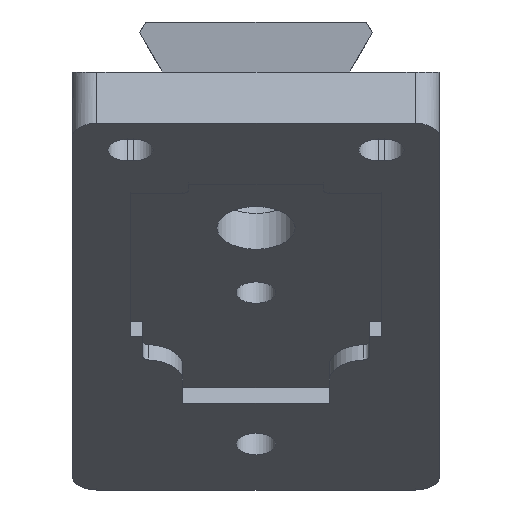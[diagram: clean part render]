
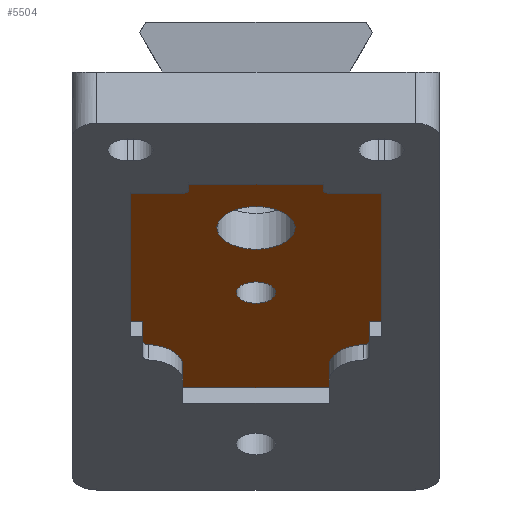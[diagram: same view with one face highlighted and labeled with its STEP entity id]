
A CAD part, left-side view. The second image highlights one B-rep face of the part: STEP entity #5504.
In plain terms, the highlighted planar face has unit normal (-0.545, 0, -0.839).
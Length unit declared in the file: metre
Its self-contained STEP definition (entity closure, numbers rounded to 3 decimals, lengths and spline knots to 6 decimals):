
#400=CIRCLE('',#5546,0.0016);
#402=CIRCLE('',#5549,0.0032);
#463=CIRCLE('',#5814,0.0005);
#464=CIRCLE('',#5815,0.003);
#465=CIRCLE('',#5816,0.003);
#466=CIRCLE('',#5817,0.0005);
#467=CIRCLE('',#5818,0.0005);
#468=CIRCLE('',#5819,0.0005);
#2017=ORIENTED_EDGE('',*,*,#2862,.T.);
#2018=ORIENTED_EDGE('',*,*,#2876,.T.);
#2019=ORIENTED_EDGE('',*,*,#2877,.T.);
#2020=ORIENTED_EDGE('',*,*,#2863,.T.);
#2021=ORIENTED_EDGE('',*,*,#2867,.T.);
#2022=ORIENTED_EDGE('',*,*,#2869,.F.);
#2023=ORIENTED_EDGE('',*,*,#2878,.T.);
#2024=ORIENTED_EDGE('',*,*,#2879,.T.);
#2025=ORIENTED_EDGE('',*,*,#2870,.F.);
#2026=ORIENTED_EDGE('',*,*,#2874,.F.);
#2027=ORIENTED_EDGE('',*,*,#2875,.T.);
#2028=ORIENTED_EDGE('',*,*,#2845,.F.);
#2029=ORIENTED_EDGE('',*,*,#2880,.T.);
#2030=ORIENTED_EDGE('',*,*,#2847,.T.);
#2031=ORIENTED_EDGE('',*,*,#2851,.T.);
#2032=ORIENTED_EDGE('',*,*,#2853,.F.);
#2033=ORIENTED_EDGE('',*,*,#2881,.T.);
#2034=ORIENTED_EDGE('',*,*,#2854,.F.);
#2035=ORIENTED_EDGE('',*,*,#2858,.F.);
#2036=ORIENTED_EDGE('',*,*,#2860,.F.);
#2037=ORIENTED_EDGE('',*,*,#2117,.F.);
#2038=ORIENTED_EDGE('',*,*,#2119,.F.);
#2117=EDGE_CURVE('',#2922,#2922,#400,.T.);
#2119=EDGE_CURVE('',#2924,#2924,#402,.T.);
#2845=EDGE_CURVE('',#3405,#3406,#3888,.T.);
#2847=EDGE_CURVE('',#3407,#3408,#3890,.T.);
#2851=EDGE_CURVE('',#3408,#3409,#3894,.T.);
#2853=EDGE_CURVE('',#3410,#3409,#3896,.T.);
#2854=EDGE_CURVE('',#3411,#3412,#3897,.T.);
#2858=EDGE_CURVE('',#3413,#3411,#3901,.T.);
#2860=EDGE_CURVE('',#3414,#3413,#3903,.T.);
#2862=EDGE_CURVE('',#3414,#3415,#3905,.T.);
#2863=EDGE_CURVE('',#3416,#3417,#3906,.T.);
#2867=EDGE_CURVE('',#3417,#3418,#3910,.T.);
#2869=EDGE_CURVE('',#3419,#3418,#3912,.T.);
#2870=EDGE_CURVE('',#3420,#3421,#3913,.T.);
#2874=EDGE_CURVE('',#3422,#3420,#3917,.T.);
#2875=EDGE_CURVE('',#3422,#3406,#3918,.T.);
#2876=EDGE_CURVE('',#3415,#3423,#463,.T.);
#2877=EDGE_CURVE('',#3423,#3416,#464,.F.);
#2878=EDGE_CURVE('',#3419,#3424,#465,.F.);
#2879=EDGE_CURVE('',#3424,#3421,#466,.T.);
#2880=EDGE_CURVE('',#3405,#3407,#467,.F.);
#2881=EDGE_CURVE('',#3410,#3412,#468,.F.);
#2922=VERTEX_POINT('',#7012);
#2924=VERTEX_POINT('',#7017);
#3405=VERTEX_POINT('',#9589);
#3406=VERTEX_POINT('',#9591);
#3407=VERTEX_POINT('',#9595);
#3408=VERTEX_POINT('',#9596);
#3409=VERTEX_POINT('',#9601);
#3410=VERTEX_POINT('',#9605);
#3411=VERTEX_POINT('',#9609);
#3412=VERTEX_POINT('',#9610);
#3413=VERTEX_POINT('',#9615);
#3414=VERTEX_POINT('',#9619);
#3415=VERTEX_POINT('',#9623);
#3416=VERTEX_POINT('',#9627);
#3417=VERTEX_POINT('',#9628);
#3418=VERTEX_POINT('',#9633);
#3419=VERTEX_POINT('',#9637);
#3420=VERTEX_POINT('',#9641);
#3421=VERTEX_POINT('',#9642);
#3422=VERTEX_POINT('',#9647);
#3423=VERTEX_POINT('',#9653);
#3424=VERTEX_POINT('',#9656);
#3888=LINE('',#9590,#4384);
#3890=LINE('',#9594,#4386);
#3894=LINE('',#9602,#4390);
#3896=LINE('',#9606,#4392);
#3897=LINE('',#9608,#4393);
#3901=LINE('',#9616,#4397);
#3903=LINE('',#9620,#4399);
#3905=LINE('',#9624,#4401);
#3906=LINE('',#9626,#4402);
#3910=LINE('',#9634,#4406);
#3912=LINE('',#9638,#4408);
#3913=LINE('',#9640,#4409);
#3917=LINE('',#9648,#4413);
#3918=LINE('',#9650,#4414);
#4384=VECTOR('',#6839,1.);
#4386=VECTOR('',#6843,1.);
#4390=VECTOR('',#6849,1.);
#4392=VECTOR('',#6853,1.);
#4393=VECTOR('',#6856,1.);
#4397=VECTOR('',#6862,1.);
#4399=VECTOR('',#6866,1.);
#4401=VECTOR('',#6870,1.);
#4402=VECTOR('',#6873,1.);
#4406=VECTOR('',#6879,1.);
#4408=VECTOR('',#6883,1.);
#4409=VECTOR('',#6886,1.);
#4413=VECTOR('',#6892,1.);
#4414=VECTOR('',#6895,1.);
#4734=EDGE_LOOP('',(#2017,#2018,#2019,#2020,#2021,#2022,#2023,#2024,#2025,
#2026,#2027,#2028,#2029,#2030,#2031,#2032,#2033,#2034,#2035,#2036));
#4735=EDGE_LOOP('',(#2037));
#4736=EDGE_LOOP('',(#2038));
#5064=FACE_BOUND('',#4734,.T.);
#5065=FACE_BOUND('',#4735,.T.);
#5066=FACE_BOUND('',#4736,.T.);
#5221=PLANE('',#5813);
#5504=ADVANCED_FACE('',(#5064,#5065,#5066),#5221,.T.);
#5546=AXIS2_PLACEMENT_3D('',#7011,#5890,#5891);
#5549=AXIS2_PLACEMENT_3D('',#7016,#5896,#5897);
#5813=AXIS2_PLACEMENT_3D('',#9651,#6896,#6897);
#5814=AXIS2_PLACEMENT_3D('',#9652,#6898,#6899);
#5815=AXIS2_PLACEMENT_3D('',#9654,#6900,#6901);
#5816=AXIS2_PLACEMENT_3D('',#9655,#6902,#6903);
#5817=AXIS2_PLACEMENT_3D('',#9657,#6904,#6905);
#5818=AXIS2_PLACEMENT_3D('',#9658,#6906,#6907);
#5819=AXIS2_PLACEMENT_3D('',#9659,#6908,#6909);
#5890=DIRECTION('',(-0.545,0.,-0.839));
#5891=DIRECTION('',(-0.839,0.,0.545));
#5896=DIRECTION('',(-0.545,0.,-0.839));
#5897=DIRECTION('',(-0.839,0.,0.545));
#6839=DIRECTION('',(0.,-1.,0.));
#6843=DIRECTION('',(-0.839,0.,0.545));
#6849=DIRECTION('',(0.,1.,0.));
#6853=DIRECTION('',(-0.839,0.,0.545));
#6856=DIRECTION('',(0.,-1.,0.));
#6862=DIRECTION('',(-0.839,0.,0.545));
#6866=DIRECTION('',(0.,1.,0.));
#6870=DIRECTION('',(0.839,0.,-0.545));
#6873=DIRECTION('',(0.839,0.,-0.545));
#6879=DIRECTION('',(0.,-1.,0.));
#6883=DIRECTION('',(0.839,0.,-0.545));
#6886=DIRECTION('',(0.839,0.,-0.545));
#6892=DIRECTION('',(0.,1.,0.));
#6895=DIRECTION('',(-0.839,0.,0.545));
#6896=DIRECTION('',(-0.545,0.,-0.839));
#6897=DIRECTION('',(0.839,0.,-0.545));
#6898=DIRECTION('',(-0.545,0.,-0.839));
#6899=DIRECTION('',(-0.839,0.,0.545));
#6900=DIRECTION('',(-0.545,0.,-0.839));
#6901=DIRECTION('',(-0.839,0.,0.545));
#6902=DIRECTION('',(-0.545,0.,-0.839));
#6903=DIRECTION('',(-0.839,0.,0.545));
#6904=DIRECTION('',(-0.545,0.,-0.839));
#6905=DIRECTION('',(-0.839,0.,0.545));
#6906=DIRECTION('',(-0.545,0.,-0.839));
#6907=DIRECTION('',(-0.839,0.,0.545));
#6908=DIRECTION('',(-0.545,0.,-0.839));
#6909=DIRECTION('',(-0.839,0.,0.545));
#7011=CARTESIAN_POINT('',(0.021334,0.,-0.018007));
#7012=CARTESIAN_POINT('',(0.019993,0.,-0.017136));
#7016=CARTESIAN_POINT('',(0.013199,0.,-0.012724));
#7017=CARTESIAN_POINT('',(0.010516,0.,-0.010981));
#9589=CARTESIAN_POINT('',(0.006909,-0.006,-0.008639));
#9590=CARTESIAN_POINT('',(0.006909,-0.007875,-0.008639));
#9591=CARTESIAN_POINT('',(0.006909,-0.01025,-0.008639));
#9594=CARTESIAN_POINT('',(0.006322,-0.0055,-0.008258));
#9595=CARTESIAN_POINT('',(0.00649,-0.0055,-0.008367));
#9596=CARTESIAN_POINT('',(0.005735,-0.0055,-0.007877));
#9601=CARTESIAN_POINT('',(0.005735,0.0055,-0.007877));
#9602=CARTESIAN_POINT('',(0.005735,0.,-0.007877));
#9605=CARTESIAN_POINT('',(0.00649,0.0055,-0.008367));
#9606=CARTESIAN_POINT('',(0.006322,0.0055,-0.008258));
#9608=CARTESIAN_POINT('',(0.006909,0.007875,-0.008639));
#9609=CARTESIAN_POINT('',(0.006909,0.01025,-0.008639));
#9610=CARTESIAN_POINT('',(0.006909,0.006,-0.008639));
#9615=CARTESIAN_POINT('',(0.024941,0.01025,-0.020349));
#9616=CARTESIAN_POINT('',(0.015925,0.01025,-0.014494));
#9619=CARTESIAN_POINT('',(0.024941,0.00925,-0.020349));
#9620=CARTESIAN_POINT('',(0.024941,0.00975,-0.020349));
#9623=CARTESIAN_POINT('',(0.027464,0.00925,-0.021988));
#9624=CARTESIAN_POINT('',(0.026408,0.00925,-0.021302));
#9626=CARTESIAN_POINT('',(0.030602,0.006,-0.024026));
#9627=CARTESIAN_POINT('',(0.030392,0.006,-0.023889));
#9628=CARTESIAN_POINT('',(0.033327,0.006,-0.025796));
#9633=CARTESIAN_POINT('',(0.033327,-0.006,-0.025796));
#9634=CARTESIAN_POINT('',(0.033327,0.,-0.025796));
#9637=CARTESIAN_POINT('',(0.030392,-0.006,-0.023889));
#9638=CARTESIAN_POINT('',(0.030602,-0.006,-0.024026));
#9640=CARTESIAN_POINT('',(0.026408,-0.00925,-0.021302));
#9641=CARTESIAN_POINT('',(0.024941,-0.00925,-0.020349));
#9642=CARTESIAN_POINT('',(0.027464,-0.00925,-0.021988));
#9647=CARTESIAN_POINT('',(0.024941,-0.01025,-0.020349));
#9648=CARTESIAN_POINT('',(0.024941,-0.00975,-0.020349));
#9650=CARTESIAN_POINT('',(0.01907,-0.01025,-0.016537));
#9651=CARTESIAN_POINT('',(0.021167,0.,-0.017898));
#9652=CARTESIAN_POINT('',(0.027464,0.00875,-0.021988));
#9653=CARTESIAN_POINT('',(0.027882,0.008786,-0.02226));
#9654=CARTESIAN_POINT('',(0.030392,0.009,-0.023889));
#9655=CARTESIAN_POINT('',(0.030392,-0.009,-0.023889));
#9656=CARTESIAN_POINT('',(0.027882,-0.008786,-0.02226));
#9657=CARTESIAN_POINT('',(0.027464,-0.00875,-0.021988));
#9658=CARTESIAN_POINT('',(0.00649,-0.006,-0.008367));
#9659=CARTESIAN_POINT('',(0.00649,0.006,-0.008367));
